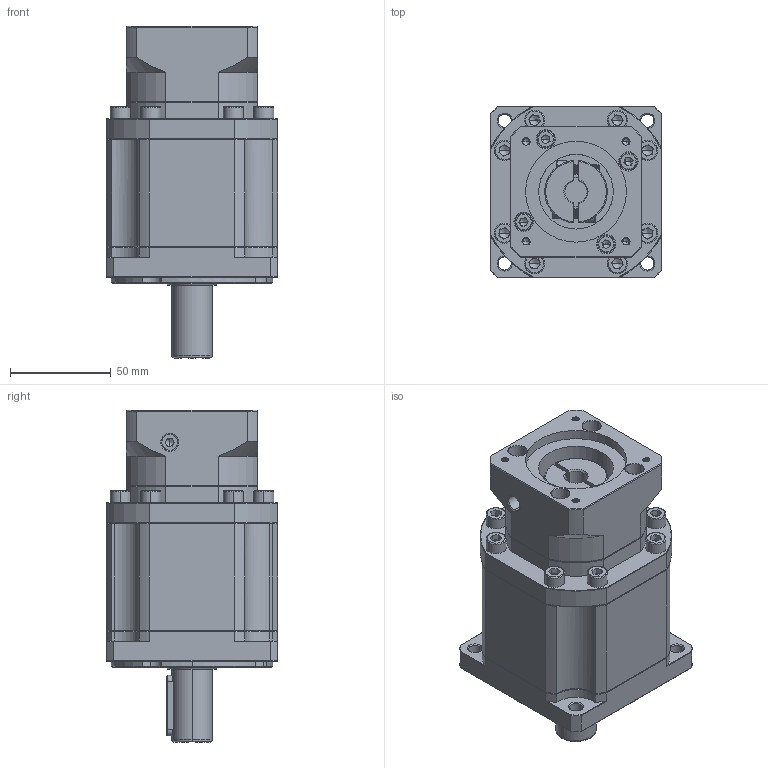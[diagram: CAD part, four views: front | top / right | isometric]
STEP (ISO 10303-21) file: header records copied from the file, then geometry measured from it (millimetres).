
FILE_DESCRIPTION (( 'STEP AP214' ), '1' );
FILE_NAME ('ZB090-D20-L3-P2-11-50-70-M4.step', '2023-08-18T13:34:01', ( '' ), ( '' ), 'SwSTEP 2.0', 'SolidWorks 2016', '' );
FILE_SCHEMA (( 'AUTOMOTIVE_DESIGN' ));
Length unit declared in the file: millimetre
Products named in the file (1): ZB090-D20-L3-P2-11-50-70-M4
Bounding box: 85 x 85 x 164.5 mm (x, y, z)
Volume: 664657.2 mm3; surface area: 82460.9 mm2
Topology: 6 solids, 6 shells, 2349 faces, 6247 edges, 3994 vertices
Faces by surface type: plane 1185, bspline 426, cylinder 394, cone 322, torus 22
Entity records: 123070 total; most frequent: CARTESIAN_POINT 42158, ORIENTED_EDGE 12402, DIRECTION 9889, EDGE_CURVE 6201, VERTEX_POINT 3994, VECTOR 3925, LINE 3925, AXIS2_PLACEMENT_3D 2982
